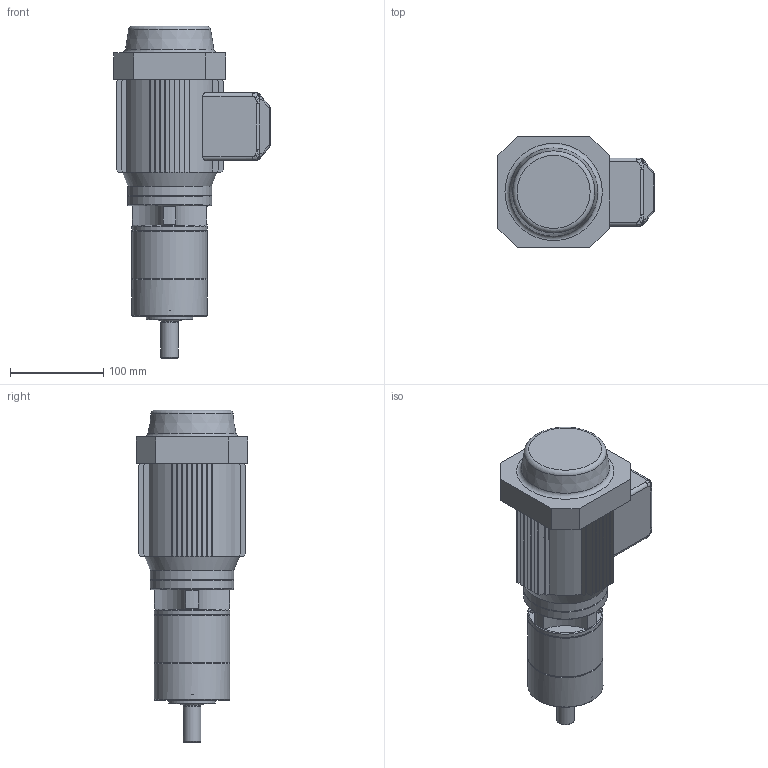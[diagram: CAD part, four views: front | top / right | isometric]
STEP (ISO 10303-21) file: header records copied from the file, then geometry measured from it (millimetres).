
FILE_DESCRIPTION((''),'2;1');
FILE_NAME('Y:\Archivi Inventor\Prog_16\Mep_80\Figurini\FIGURINI PER WEB\2s\Fig_MEP80_2s_PAM63B14.stp','2013-09-26T10:23:14',('tech3'),(''),'Autodesk Inventor 2013','Autodesk Inventor 2013','');
FILE_SCHEMA(('AUTOMOTIVE_DESIGN { 1 0 10303 214 1 1 1 1 }'));
Length unit declared in the file: millimetre
Products named in the file (11): Fig_MEP80_2S; Fig_1608001_B2; Fig_1608002_A0; Fig_1608003_A0; Fig_1608010_A1; 16108011-A1; PARAOLIO 25x40x7; UNI 5931 M 5 x  40; UNI 5931 M 5 x  45; 1608004-B0; motori B14 63
Assembly tree (17 placements, depth 2):
  Fig_MEP80_2S
    Fig_1608001_B2
    Fig_1608002_A0
    Fig_1608003_A0
    Fig_1608010_A1
    16108011-A1  x2
    PARAOLIO 25x40x7
    UNI 5931 M 5 x  40  x4
    UNI 5931 M 5 x  45  x4
    1608004-B0
    motori B14 63
Bounding box: 168 x 120 x 356.7 mm (x, y, z)
Volume: 2478721 mm3; surface area: 275225.4 mm2
Topology: 17 solids, 17 shells, 716 faces, 1787 edges, 1126 vertices
Faces by surface type: plane 410, cylinder 179, cone 69, bspline 32, torus 22, sphere 4
Full cylindrical faces by diameter (mm): 4.134 x12, 4.917 x5, 5 x16, 5.5 x24, 6 x4, 6.4 x1, 8.5 x8, 9 x8, 11 x1, 18.4 x1, 19 x1, 25 x1, 28.467 x1, 35 x1, 37.5 x1, 40 x2, 42 x2, 50 x1, 58.45 x6, 60 x2, 79.5 x2, 81 x3, 90 x2
Entity records: 20030 total; most frequent: CARTESIAN_POINT 5492, DIRECTION 2916, ORIENTED_EDGE 2720, EDGE_CURVE 1360, AXIS2_PLACEMENT_3D 1048, VERTEX_POINT 928, EDGE_LOOP 834, VECTOR 820
